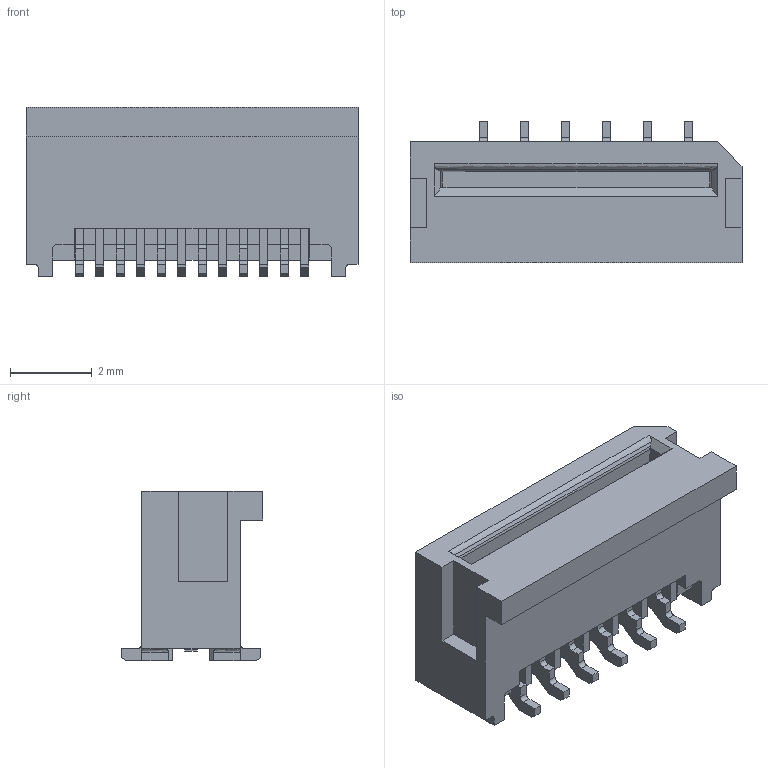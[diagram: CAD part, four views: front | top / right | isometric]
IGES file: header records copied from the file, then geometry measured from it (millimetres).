
Start section: START RECORD GO HERE.
Global section: file name: 00_6244_012_001_xxx_+.igs; native system: DASSAULT SYSTEMES CATIA Version 5-6 Release 2014 - www.3ds.com; preprocessor: V5-6R2014_5.24.4.0.09-01-2014.20.00; author: user; organization: CATIA11; date: 20160408.164121; units: millimetre
Bounding box: 8.1 x 3.45 x 4.13 mm (x, y, z)
Surface area: 217.1 mm2 (no closed solid volume)
Topology: 0 solids, 0 shells, 384 faces, 2388 edges, 2386 vertices
Faces by surface type: plane 350, revolution 34
